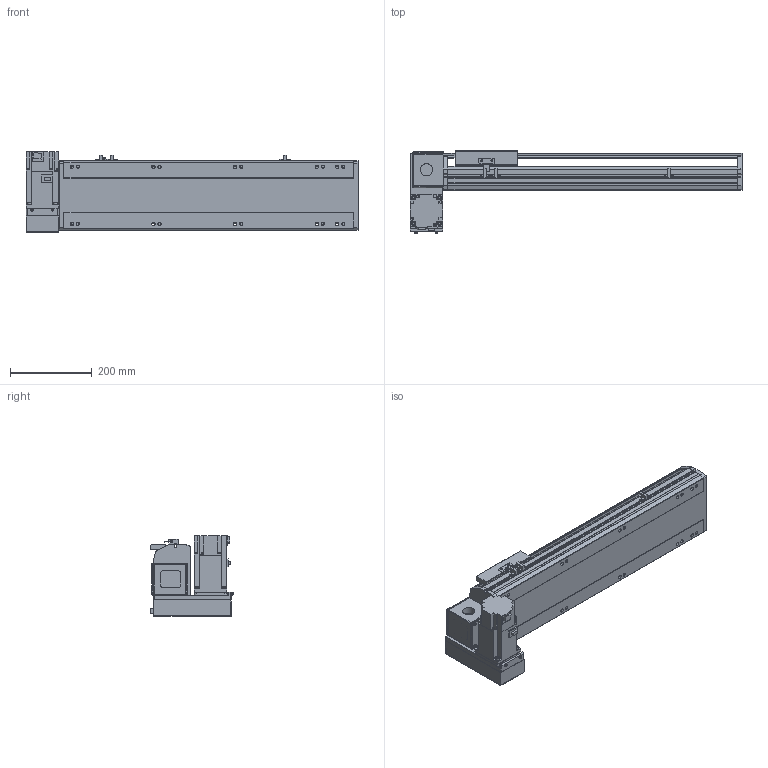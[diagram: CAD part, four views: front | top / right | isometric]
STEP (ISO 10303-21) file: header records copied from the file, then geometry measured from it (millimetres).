
FILE_DESCRIPTION( ( 'STEP AP214' ), '1' );
FILE_NAME( 'x:/temp/worker_3/temp/exporttempdir_5412_3_WzLRF/format_0/PBS170-P40-S450-LD-T75-C1-N(0).stp', '2022-06-07T07:50:36', ( 'License CC BY-ND 4.0' ), ( 'CADENAS' ), ' ', 'PARTsolutions', ' ' );
FILE_SCHEMA( ( 'AUTOMOTIVE_DESIGN { 1 0 10303 214 1 1 1 1 }' ) );
Length unit declared in the file: millimetre
Products named in the file (7): PBS170-P40-S450-LD-T75-C1-N(0); _PBS170-S450()_body; _PBS170T-LD_motors; _T75-p1; _PBS170_sliser; _PBS170_plant; _PBS170_sensor
Assembly tree (8 placements, depth 2):
  PBS170-P40-S450-LD-T75-C1-N(0)
    _PBS170-S450()_body
    _PBS170T-LD_motors
    _T75-p1
    _PBS170_sliser
    _PBS170_plant
    _PBS170_sensor  x3
Bounding box: 813 x 201 x 197.3 mm (x, y, z)
Volume: 7068767.7 mm3; surface area: 968427.7 mm2
Topology: 8 solids, 8 shells, 1034 faces, 2755 edges, 1796 vertices
Faces by surface type: plane 669, cylinder 315, cone 40, sphere 8, torus 2
Full cylindrical faces by diameter (mm): 3.242 x4, 4 x2, 4.4 x4, 4.5 x6, 4.917 x4, 6 x9, 6.647 x18, 7 x2, 7.5 x4, 8 x8, 8.5 x10, 10 x4, 10.5 x10, 11 x2, 30 x2, 40 x1, 70 x1
Entity records: 37814 total; most frequent: CARTESIAN_POINT 5717, DIRECTION 5090, ORIENTED_EDGE 4848, EDGE_CURVE 2424, AXIS2_PLACEMENT_3D 1747, VERTEX_POINT 1658, LINE 1596, VECTOR 1596
